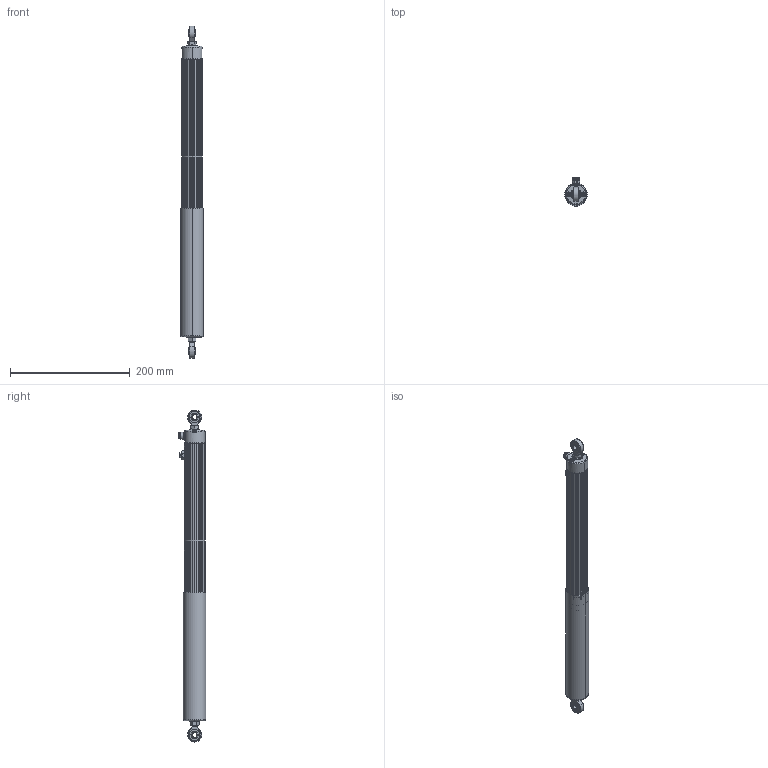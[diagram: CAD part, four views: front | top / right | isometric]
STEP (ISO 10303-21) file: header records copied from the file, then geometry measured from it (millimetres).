
FILE_DESCRIPTION (( 'STEP AP214' ), '1' );
FILE_NAME ('0175.STEP', '2009-01-27T10:03:40', ( 'novotechnik' ), ( 'novotechnik' ), 'SwSTEP 2.0', 'SolidWorks 2009', '' );
FILE_SCHEMA (( 'AUTOMOTIVE_DESIGN' ));
Length unit declared in the file: millimetre
Products named in the file (3): 0175_Bew; 0175
Assembly tree (2 placements, depth 2):
  0175
    0175_Bew
    0175
Bounding box: 38 x 46.6 x 555.6 mm (x, y, z)
Volume: 340343.7 mm3; surface area: 130133.5 mm2
Topology: 34 solids, 34 shells, 1092 faces, 2750 edges, 1748 vertices
Faces by surface type: cylinder 451, plane 338, cone 173, bspline 70, torus 42, sphere 18
Entity records: 48018 total; most frequent: CARTESIAN_POINT 9403, DIRECTION 5760, ORIENTED_EDGE 5486, EDGE_CURVE 2743, AXIS2_PLACEMENT_3D 2278, VERTEX_POINT 1745, CIRCLE 1251, VECTOR 1204
